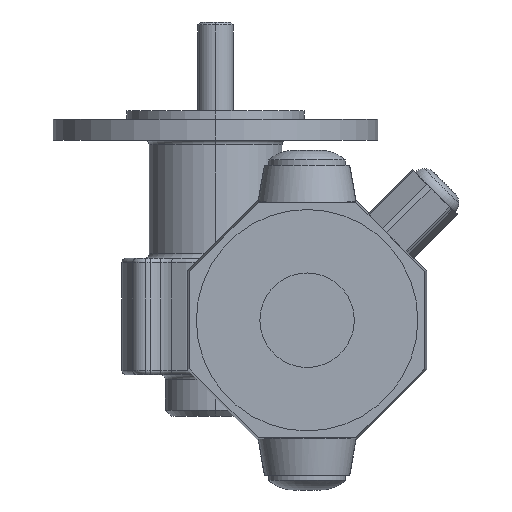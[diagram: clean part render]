
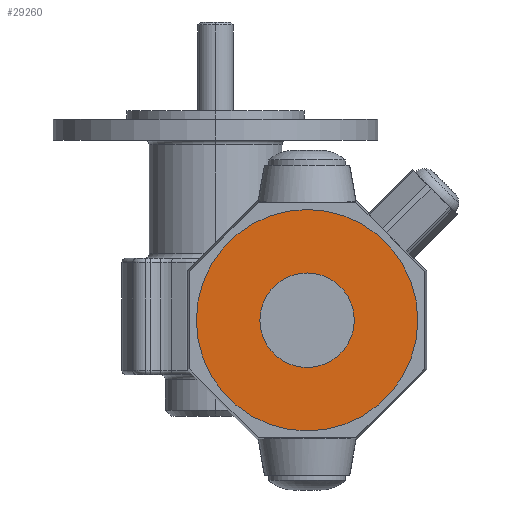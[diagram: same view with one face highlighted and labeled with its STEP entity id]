
A CAD part, left-side view. The second image highlights one B-rep face of the part: STEP entity #29260.
In plain terms, the highlighted planar face has unit normal (-1, 0, 0) as drawn and (0.026, 0, -1) by its records, which use the part's own axes.
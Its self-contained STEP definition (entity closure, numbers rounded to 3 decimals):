
#23710=CARTESIAN_POINT('',(-63.551,455.,
-144.555));
#23720=VERTEX_POINT('',#23710);
#23750=CARTESIAN_POINT('',(-47.556,455.,
-144.136));
#23760=DIRECTION('',(0.026,0.,
-1.));
#23770=DIRECTION('',(-1.,0.,
-0.026));
#23780=AXIS2_PLACEMENT_3D('',#23750,#23760,#23770);
#23790=CIRCLE('',#23780,16.);
#23800=CARTESIAN_POINT('',(-31.561,455.,
-143.717));
#23810=VERTEX_POINT('',#23800);
#23820=EDGE_CURVE('',#23810,#23720,#23790,.T.);
#27700=CARTESIAN_POINT('',(-85.043,455.,
-145.117));
#27710=VERTEX_POINT('',#27700);
#27790=CARTESIAN_POINT('',(-10.069,455.,
-143.154));
#27800=VERTEX_POINT('',#27790);
#27830=CARTESIAN_POINT('',(-47.556,455.,
-144.136));
#27840=DIRECTION('',(0.026,0.,
-1.));
#27850=DIRECTION('',(-1.,0.,
-0.026));
#27860=AXIS2_PLACEMENT_3D('',#27830,#27840,#27850);
#27870=CIRCLE('',#27860,37.5);
#27880=EDGE_CURVE('',#27800,#27710,#27870,.T.);
#29110=CARTESIAN_POINT('',(-47.636,446.576,
-144.138));
#29120=DIRECTION('',(0.026,0.,
-1.));
#29130=DIRECTION('',(-1.,0.,
-0.026));
#29140=AXIS2_PLACEMENT_3D('',#29110,#29120,#29130);
#29150=PLANE('',#29140);
#29160=EDGE_CURVE('',#27710,#27800,#27870,.T.);
#29170=ORIENTED_EDGE('',*,*,#29160,.T.);
#29180=ORIENTED_EDGE('',*,*,#27880,.T.);
#29190=EDGE_LOOP('',(#29180,#29170));
#29200=FACE_OUTER_BOUND('',#29190,.T.);
#29210=EDGE_CURVE('',#23720,#23810,#23790,.T.);
#29220=ORIENTED_EDGE('',*,*,#29210,.F.);
#29230=ORIENTED_EDGE('',*,*,#23820,.F.);
#29240=EDGE_LOOP('',(#29230,#29220));
#29250=FACE_BOUND('',#29240,.T.);
#29260=ADVANCED_FACE('',(#29200,#29250),#29150,.T.);
